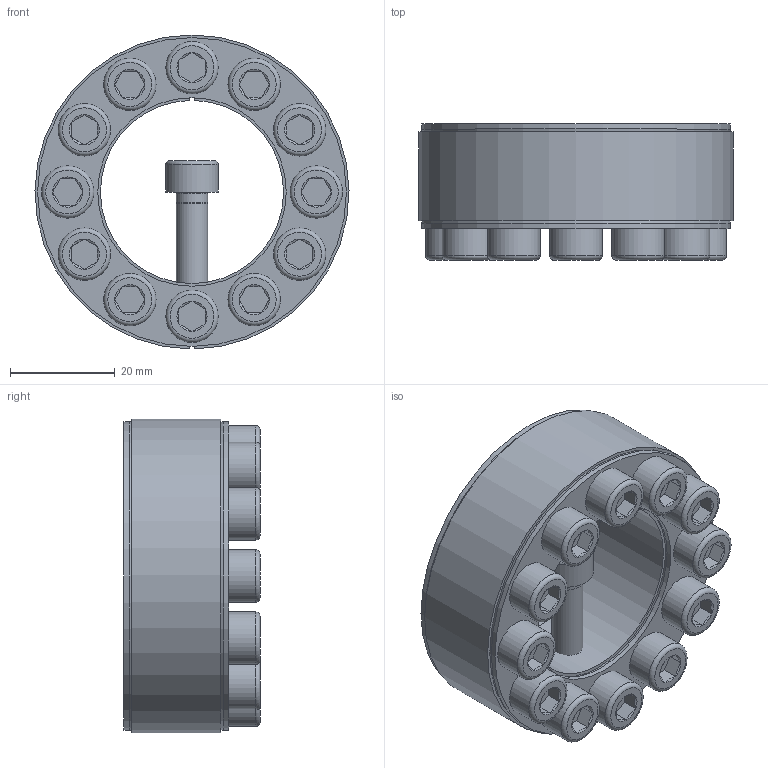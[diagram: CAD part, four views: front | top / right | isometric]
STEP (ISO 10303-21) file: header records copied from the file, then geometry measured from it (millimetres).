
FILE_DESCRIPTION( ( 'Unknown' ), '1' );
FILE_NAME( 'C:/Dokumente und Einstellungen/Sven/Desktop/homepage/cad - homepage/KBS40/KBS 40 - 35 x 60.stp', 'Unknown', ( 'Unknown' ), ( 'Unknown' ), 'XStep 1.0', 'Unknown', ' ' );
FILE_SCHEMA( ( 'automotive_design' ) );
Length unit declared in the file: millimetre
Products named in the file (14): Assem1; KBS 40 35x60; ISO 4762 M6x18; ISO 4762 M6x18-oa0; ISO 4762 M6x18-oa1; ISO 4762 M6x18-oa2; ISO 4762 M6x18-oa3; ISO 4762 M6x18-oa4; ISO 4762 M6x18-oa5; ISO 4762 M6x18-oa6; ISO 4762 M6x18-oa7; ISO 4762 M6x18-oa8; ISO 4762 M6x18-oa9; ISO 4762 M6x18-oa10
Bounding box: 60 x 26 x 60 mm (x, y, z)
Volume: 81825.6 mm3; surface area: 45013.9 mm2
Topology: 26 solids, 26 shells, 684 faces, 1268 edges, 732 vertices
Faces by surface type: plane 328, cone 176, cylinder 132, torus 48
Full cylindrical faces by diameter (mm): 5 x24, 6 x72, 10 x24, 36 x4, 59 x4
Entity records: 8451 total; most frequent: CARTESIAN_POINT 1752, DIRECTION 1392, ORIENTED_EDGE 1008, AXIS2_PLACEMENT_3D 604, EDGE_LOOP 520, EDGE_CURVE 504, FACE_OUTER_BOUND 430, ADVANCED_FACE 342
